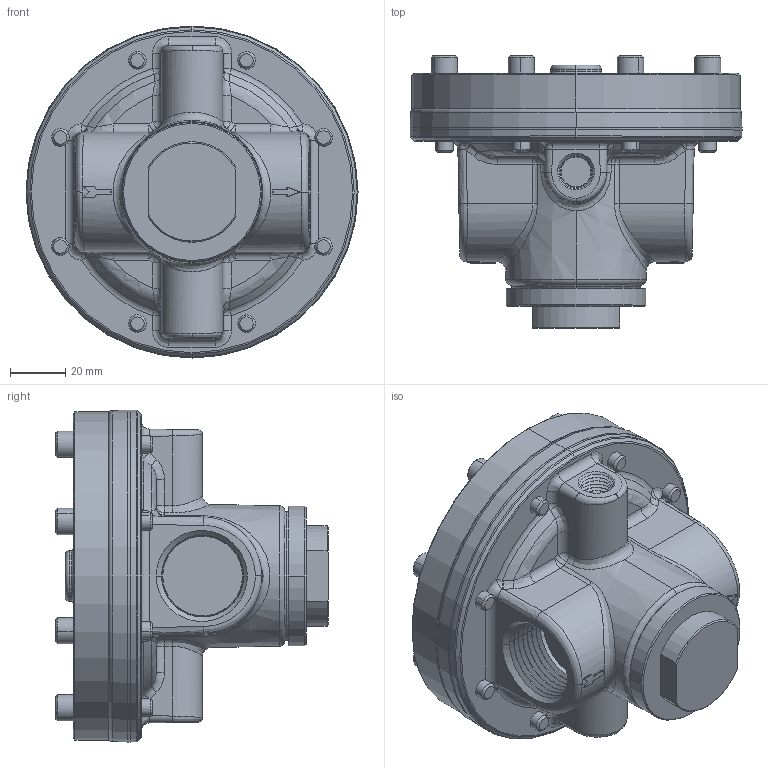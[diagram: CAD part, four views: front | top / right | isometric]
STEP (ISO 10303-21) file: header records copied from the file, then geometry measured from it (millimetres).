
FILE_DESCRIPTION (( 'STEP AP203' ), '1' );
FILE_NAME ('4GDR-1000B-PO.STEP', '2013-03-14T12:22:29', ( '' ), ( '' ), 'SwSTEP 2.0', 'SolidWorks 2011', '' );
FILE_SCHEMA (( 'CONFIG_CONTROL_DESIGN' ));
Length unit declared in the file: inch
Products named in the file (2): 4GDR-1000B-PO; Part7^4GDR-1000B-PO_CM
Assembly tree (1 placements, depth 2):
  4GDR-1000B-PO
    Part7^4GDR-1000B-PO_CM
Bounding box: 120.14 x 98.67 x 120.14 mm (x, y, z)
Volume: 476021.2 mm3; surface area: 57084.9 mm2
Topology: 1 solids, 1 shells, 727 faces, 1579 edges, 855 vertices
Faces by surface type: cone 338, plane 160, cylinder 105, bspline 65, torus 32, sphere 27
Entity records: 23133 total; most frequent: CARTESIAN_POINT 7653, DIRECTION 3357, ORIENTED_EDGE 3092, EDGE_CURVE 1546, AXIS2_PLACEMENT_3D 1338, VERTEX_POINT 855, EDGE_LOOP 761, ADVANCED_FACE 727
